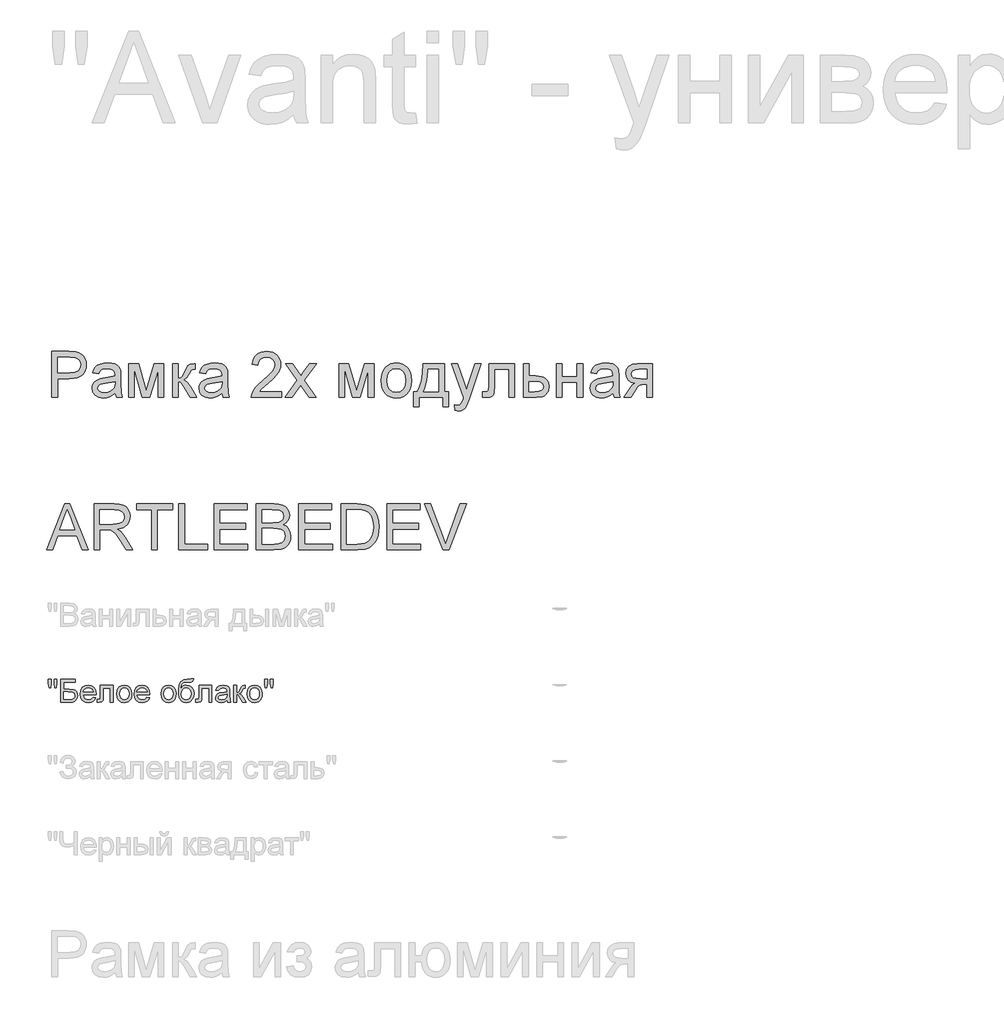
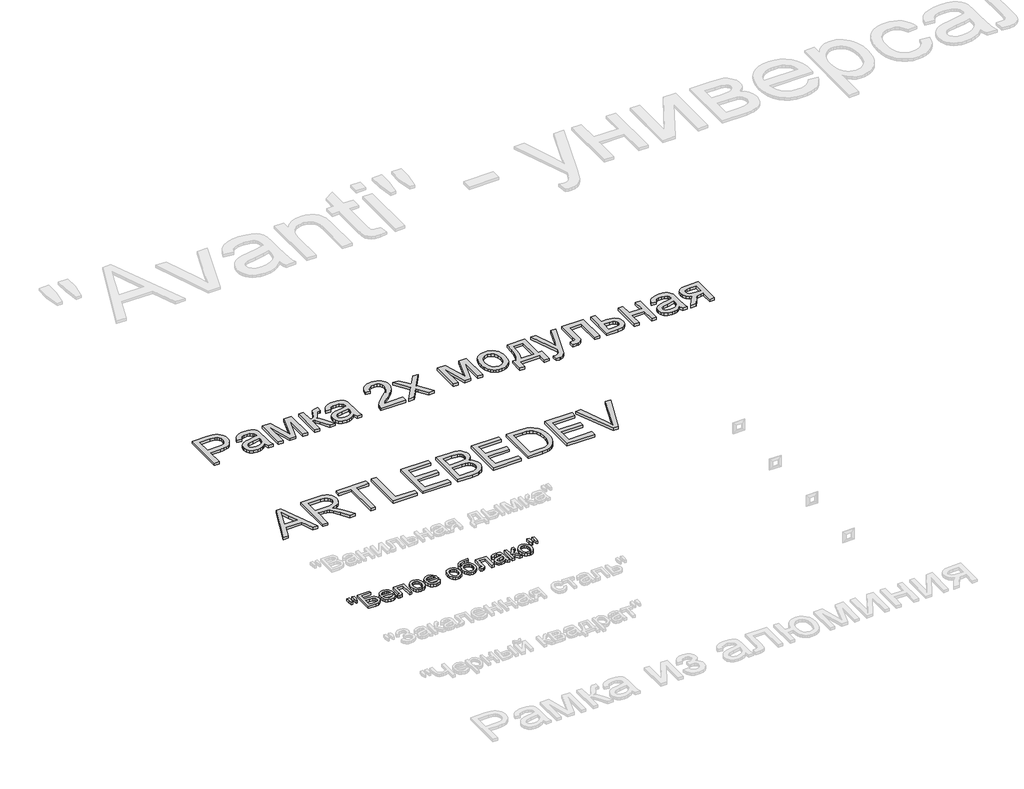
# One storey, part 117 of 168: 3 proxies.
"""IFC4 building model written with IfcOpenShell, lengths in millimetres."""

from ifc_helpers import new_model, si_unit, origin, origin_with_axes, place, context, project, spatial, polyline, outline, extrude, element, save

model = new_model("IFC4")

# Units and contexts
model_context = context("Model", 3, world=origin())
ifc_project = project(units=[si_unit("LENGTHUNIT", "METRE", prefix="MILLI")], contexts=[model_context])

# Site, building, storey
site = spatial("IfcSite", under=ifc_project)
building = spatial("IfcBuilding", under=site)
storey = spatial("IfcBuildingStorey", under=building, Name="Этаж 01", Elevation=0.0)

# Proxies
placement = place(None, origin())
element("IfcBuildingElementProxy", 1, Name="300 мм Arial 2", ObjectType="300 мм Arial 2", at=placement, inside=storey, context=model_context, shape_type="SweptSolid", body=[
    extrude(outline(polyline([(32899.0945017, -5048.4056816), (32899.0945017, -4747.0367511), (33010.7834754, -4747.0367511), (33055.8122316, -4749.9062307), (33075.8893915, -4755.2681108), (33092.4164901, -4763.9961111), (33105.7246213, -4776.4857048), (33116.1448788, -4793.1323651), (33122.8771193, -4812.7680666), (33125.1211995, -4834.224784), (33123.6059855, -4852.7246498), (33119.0603436, -4869.7437906), (33111.4842738, -4885.2822064), (33100.877776, -4899.3398971), (33086.3165468, -4910.9925593), (33066.8762826, -4919.3158895), (33042.5569835, -4924.3098875), (33013.3586494, -4925.9745536), (32936.765618, -4925.9745536), (32936.765618, -5048.4056816), (32899.0945017, -5048.4056816)]), holes=[polyline([(32936.765618, -4888.3034373), (33015.5659413, -4888.3034373), (33048.9696265, -4884.8453465), (33071.0425462, -4874.4710742), (33083.3481989, -4857.824414), (33087.4500832, -4835.5491592), (33085.0312591, -4818.6265874), (33077.7747867, -4804.352766), (33066.581977, -4793.6106117), (33052.3541408, -4787.2830414), (33014.6830245, -4784.7078674), (32936.765618, -4784.7078674), (32936.765618, -4888.3034373)])]), origin_with_axes(), (0.0, 0.0, 1.0), 20.0),
    extrude(outline(polyline([(33313.476781, -5020.1523443), (33295.4781544, -5035.584994), (33276.9460989, -5045.6833548), (33257.4575502, -5051.256767), (33236.589444, -5053.1145711), (33205.1079423, -5048.6448049), (33181.8853914, -5035.2355061), (33167.5655847, -5014.8732377), (33162.7923158, -4989.5445623), (33164.5949376, -4973.9279716), (33170.0028029, -4959.7461207), (33178.3445271, -4947.6060149), (33188.9487257, -4938.1146594), (33215.3258647, -4925.7538244), (33247.9202095, -4920.0884417), (33286.4374544, -4914.1287533), (33313.2560518, -4907.1389954), (33313.476781, -4898.7512859), (33310.883213, -4881.9390788), (33303.1025088, -4870.9394071), (33285.7016904, -4862.7724268), (33261.4582669, -4860.0501), (33239.0174652, -4861.8619189), (33223.3456922, -4867.2973753), (33212.6587202, -4877.3497509), (33205.1723216, -4893.0123268), (33167.5012053, -4888.3034373), (33174.0403078, -4867.7020455), (33183.7983777, -4851.5152378), (33197.685923, -4839.1360086), (33216.6134517, -4829.9573528), (33239.7624262, -4824.273576), (33266.3143092, -4822.3789837), (33291.7809404, -4824.0528468), (33311.9684648, -4829.074436), (33327.1895824, -4836.625214), (33337.7569927, -4845.8866432), (33344.7651447, -4857.3369703), (33349.3084874, -4871.4544419), (33351.1478973, -4904.4166687), (33351.1478973, -4951.2848348), (33353.0608837, -5016.7310418), (33360.5656764, -5048.4056816), (33322.8945601, -5048.4056816), (33313.476781, -5020.1523443)]), holes=[polyline([(33313.476781, -4944.8101117), (33252.7026754, -4956.3616064), (33220.2922716, -4962.4684475), (33205.61378, -4972.4012614), (33200.4634321, -4986.895812), (33203.2685323, -4998.0978187), (33211.683833, -5007.2764745), (33225.525393, -5013.4017097), (33244.6092715, -5015.4434548), (33264.8427813, -5013.1901776), (33282.7218462, -5006.4303459), (33297.2163968, -4996.4699409), (33307.2963635, -4984.6149436), (33311.7661297, -4972.4012614), (33313.2560518, -4955.4786896), (33313.476781, -4944.8101117)])]), origin_with_axes(), (0.0, 0.0, 1.0), 20.0),
    extrude(outline(polyline([(33402.9456823, -4827.0878733), (33467.7664898, -4827.0878733), (33517.7248647, -5004.2598421), (33571.5827888, -4827.0878733), (33633.6812696, -4827.0878733), (33633.6812696, -5048.4056816), (33596.0101533, -5048.4056816), (33596.0101533, -4870.2036431), (33541.8579236, -5048.4056816), (33492.4145835, -5048.4056816), (33440.6167986, -4861.6687808), (33440.6167986, -5048.4056816), (33402.9456823, -5048.4056816), (33402.9456823, -4827.0878733)])), origin_with_axes(), (0.0, 0.0, 1.0), 20.0),
    extrude(outline(polyline([(33690.1879441, -4827.0878733), (33727.8590604, -4827.0878733), (33727.8590604, -4921.265664), (33743.1813455, -4919.5734069), (33753.0957653, -4914.4966353), (33761.8697508, -4901.2528835), (33773.7707334, -4875.0596854), (33790.9508226, -4841.0306009), (33806.1075608, -4829.9573528), (33833.6619222, -4827.0878733), (33840.8724093, -4827.0878733), (33840.8724093, -4864.9797188), (33830.7188662, -4864.7589896), (33812.3247665, -4868.7321151), (33799.3753203, -4893.5273616), (33784.1817939, -4920.345959), (33762.8814263, -4933.4793463), (33774.8191971, -4938.7814455), (33786.6466032, -4948.1394438), (33809.9703217, -4979.0231373), (33850.2901884, -5048.4056816), (33807.4687241, -5048.4056816), (33767.9581979, -4980.4946653), (33748.0925701, -4951.7630814), (33738.8035497, -4946.5483542), (33727.8590604, -4944.8101117), (33727.8590604, -5048.4056816), (33690.1879441, -5048.4056816), (33690.1879441, -4827.0878733)])), origin_with_axes(), (0.0, 0.0, 1.0), 20.0),
    extrude(outline(polyline([(34015.1013222, -5020.1523443), (33997.1026956, -5035.584994), (33978.5706401, -5045.6833548), (33959.0820914, -5051.256767), (33938.2139852, -5053.1145711), (33906.7324835, -5048.6448049), (33883.5099326, -5035.2355061), (33869.1901259, -5014.8732377), (33864.416857, -4989.5445623), (33866.2194788, -4973.9279716), (33871.6273441, -4959.7461207), (33879.9690683, -4947.6060149), (33890.5732669, -4938.1146594), (33916.9504059, -4925.7538244), (33949.5447507, -4920.0884417), (33988.0619956, -4914.1287533), (34014.880593, -4907.1389954), (34015.1013222, -4898.7512859), (34012.5077542, -4881.9390788), (34004.72705, -4870.9394071), (33987.3262316, -4862.7724268), (33963.0828081, -4860.0501), (33940.6420064, -4861.8619189), (33924.9702334, -4867.2973753), (33914.2832614, -4877.3497509), (33906.7968628, -4893.0123268), (33869.1257465, -4888.3034373), (33875.664849, -4867.7020455), (33885.4229189, -4851.5152378), (33899.3104642, -4839.1360086), (33918.2379929, -4829.9573528), (33941.3869674, -4824.273576), (33967.9388504, -4822.3789837), (33993.4054816, -4824.0528468), (34013.593006, -4829.074436), (34028.8141236, -4836.625214), (34039.3815339, -4845.8866432), (34046.3896859, -4857.3369703), (34050.9330286, -4871.4544419), (34052.7724385, -4904.4166687), (34052.7724385, -4951.2848348), (34054.6854249, -5016.7310418), (34062.1902176, -5048.4056816), (34024.5191013, -5048.4056816), (34015.1013222, -5020.1523443)]), holes=[polyline([(34015.1013222, -4944.8101117), (33954.3272166, -4956.3616064), (33921.9168128, -4962.4684475), (33907.2383212, -4972.4012614), (33902.0879733, -4986.895812), (33904.8930735, -4998.0978187), (33913.3083742, -5007.2764745), (33927.1499342, -5013.4017097), (33946.2338127, -5015.4434548), (33966.4673225, -5013.1901776), (33984.3463874, -5006.4303459), (33998.840938, -4996.4699409), (34008.9209047, -4984.6149436), (34013.3906709, -4972.4012614), (34014.880593, -4955.4786896), (34015.1013222, -4944.8101117)])]), origin_with_axes(), (0.0, 0.0, 1.0), 20.0),
    extrude(outline(polyline([(34405.9391539, -5010.7345653), (34405.9391539, -5048.4056816), (34208.1657933, -5048.4056816), (34212.2124952, -5022.4332127), (34221.5015156, -5002.1353236), (34235.0947553, -4982.4444398), (34254.758048, -4961.8338511), (34282.2572271, -4938.776847), (34322.9081876, -4902.6692292), (34347.2987639, -4876.0161786), (34359.494052, -4854.3847173), (34363.5591481, -4833.3418672), (34359.7239783, -4814.4787179), (34348.2184689, -4798.7977478), (34330.5325419, -4788.2303375), (34308.1561196, -4784.7078674), (34284.6576571, -4788.1475641), (34266.4015131, -4798.466654), (34254.6200922, -4814.8557969), (34250.5457991, -4836.5056523), (34212.8746828, -4831.7967628), (34222.0073534, -4795.3580512), (34230.553712, -4780.8221139), (34241.7534195, -4768.7417888), (34255.3489584, -4759.2458348), (34271.0828115, -4752.4630105), (34308.96546, -4747.0367511), (34329.1552837, -4748.5450673), (34347.1240199, -4753.0700158), (34362.8716686, -4760.6115967), (34376.3982297, -4771.16981), (34387.2622449, -4783.9629064), (34395.0222557, -4798.2091366), (34399.6782622, -4813.9085008), (34401.2302644, -4831.0609988), (34399.5564013, -4849.0780195), (34394.5348121, -4866.7823406), (34385.6228707, -4884.7901642), (34372.2779513, -4903.7176929), (34351.005175, -4926.3148444), (34318.3096627, -4955.3315368), (34274.9731636, -4991.5679133), (34257.9770154, -5010.7345653), (34405.9391539, -5010.7345653)])), origin_with_axes(), (0.0, 0.0, 1.0), 20.0),
    extrude(outline(polyline([(34429.4836016, -5048.4056816), (34509.9761821, -4937.1581662), (34434.1924911, -4827.0878733), (34479.5155529, -4827.0878733), (34516.0830233, -4880.0628806), (34533.1527478, -4905.0788562), (34547.941604, -4884.6246173), (34589.5858459, -4827.0878733), (34634.9089077, -4827.0878733), (34555.2992439, -4937.1581662), (34631.9658517, -5048.4056816), (34586.6427899, -5048.4056816), (34540.5103877, -4981.5247348), (34532.0491018, -4969.3110526), (34474.8066634, -5048.4056816), (34429.4836016, -5048.4056816)])), origin_with_axes(), (0.0, 0.0, 1.0), 20.0),
    extrude(outline(polyline([(34782.650317, -4827.0878733), (34847.4711245, -4827.0878733), (34897.4294995, -5004.2598421), (34951.2874236, -4827.0878733), (35013.3859043, -4827.0878733), (35013.3859043, -5048.4056816), (34975.714788, -5048.4056816), (34975.714788, -4870.2036431), (34921.5625583, -5048.4056816), (34872.1192182, -5048.4056816), (34820.3214333, -4861.6687808), (34820.3214333, -5048.4056816), (34782.650317, -5048.4056816), (34782.650317, -4827.0878733)])), origin_with_axes(), (0.0, 0.0, 1.0), 20.0),
    extrude(outline(polyline([(35060.4747997, -4937.7467774), (35062.5119463, -4909.0841715), (35068.6233859, -4884.385494), (35078.8091187, -4863.6507451), (35093.0691445, -4846.8799246), (35107.4257394, -4836.160763), (35123.2722563, -4828.504219), (35140.6086953, -4823.9102925), (35159.4350564, -4822.3789837), (35180.2180899, -4824.2436856), (35199.0099621, -4829.8377912), (35215.8106729, -4839.1613005), (35230.6202225, -4852.2142135), (35242.7074453, -4868.5550719), (35251.3411759, -4887.7424172), (35256.5214142, -4909.7762495), (35258.2481603, -4934.6565687), (35255.1947398, -4972.7139611), (35246.0344781, -5001.6846682), (35231.0340897, -5023.3805088), (35210.4602892, -5039.6133019), (35186.0237276, -5049.7392538), (35159.4350564, -5053.1145711), (35138.3485203, -5051.256767), (35119.3819042, -5045.6833548), (35102.5352081, -5036.3943344), (35087.808432, -5023.3897059), (35075.8499679, -5006.8901984), (35067.3082078, -4987.1165412), (35062.1831517, -4964.0687342), (35060.4747997, -4937.7467774)]), holes=[polyline([(35098.145916, -4937.673201), (35102.5053177, -4971.7666649), (35115.5835226, -4996.0560737), (35135.2652093, -5010.5966095), (35159.4350564, -5015.4434548), (35183.4945389, -5010.5690184), (35203.1394375, -4995.9457091), (35216.2176424, -4971.3344036), (35220.577044, -4936.4959786), (35216.1900512, -4903.3957961), (35203.0290729, -4879.4374812), (35183.3565832, -4864.8969453), (35159.4350564, -4860.0501), (35135.2652093, -4864.8785512), (35115.5835226, -4879.3639048), (35102.5053177, -4903.5981312), (35098.145916, -4937.673201)])]), origin_with_axes(), (0.0, 0.0, 1.0), 20.0),
    extrude(outline(polyline([(35333.5903929, -4827.0878733), (35474.8570791, -4827.0878733), (35474.8570791, -5010.7345653), (35503.1104163, -5010.7345653), (35503.1104163, -5109.6212456), (35465.4393, -5109.6212456), (35465.4393, -5048.4056816), (35310.0459452, -5048.4056816), (35310.0459452, -5109.6212456), (35272.3748289, -5109.6212456), (35272.3748289, -5010.7345653), (35295.9192766, -5010.7345653), (35313.0349865, -4979.8048865), (35325.0187425, -4938.8872116), (35331.8705446, -4887.9815405), (35333.5903929, -4827.0878733)]), holes=[polyline([(35366.5526197, -4864.7589896), (35363.4624109, -4910.8821947), (35357.7234518, -4950.5858591), (35349.3357423, -4983.8699826), (35338.2992825, -5010.7345653), (35437.1859628, -5010.7345653), (35437.1859628, -4864.7589896), (35366.5526197, -4864.7589896)])]), origin_with_axes(), (0.0, 0.0, 1.0), 20.0),
    extrude(outline(polyline([(35545.4904222, -5133.1656933), (35540.7815326, -5096.8925285), (35559.9113964, -5100.2034665), (35577.7904613, -5096.0463999), (35588.7533448, -5084.4581171), (35599.0540407, -5056.7198147), (35601.9970966, -5047.5963412), (35521.9459745, -4827.0878733), (35561.6772299, -4827.0878733), (35604.1308122, -4949.9604597), (35618.9196684, -4999.1094942), (35633.7085246, -4955.6994188), (35677.3393292, -4827.0878733), (35716.7762791, -4827.0878733), (35639.7417893, -5053.7031823), (35619.7290088, -5102.8522169), (35609.4834952, -5118.5423839), (35597.8768183, -5129.4132969), (35584.3939432, -5135.7592613), (35568.5198351, -5137.8745828), (35545.4904222, -5133.1656933)])), origin_with_axes(), (0.0, 0.0, 1.0), 20.0),
    extrude(outline(polyline([(35766.8082305, -4827.0878733), (35936.3282538, -4827.0878733), (35936.3282538, -5048.1849524), (35898.6571375, -5048.1849524), (35898.6571375, -4864.7589896), (35804.4793468, -4864.7589896), (35804.4793468, -4970.3411222), (35801.940961, -5019.0486984), (35797.1860862, -5030.0759612), (35787.9982334, -5039.6133019), (35774.0555058, -5046.2075866), (35755.0360066, -5048.4056816), (35724.4282246, -5046.4926952), (35724.4282246, -5010.7345653), (35741.27722, -5010.7345653), (35758.3101564, -5008.4169087), (35765.1159733, -5001.0592688), (35766.8082305, -4968.2074066), (35766.8082305, -4827.0878733)])), origin_with_axes(), (0.0, 0.0, 1.0), 20.0),
    extrude(outline(polyline([(35992.8349283, -4827.0878733), (36030.5060446, -4827.0878733), (36030.5060446, -4907.1389954), (36073.91612, -4907.1389954), (36111.5504481, -4911.857082), (36126.6979893, -4917.7546902), (36139.3991152, -4926.0113418), (36149.4422936, -4936.3419281), (36156.6159925, -4948.4613405), (36162.3549517, -4978.0666441), (36157.4713182, -5005.0231973), (36142.8204177, -5027.7675016), (36131.5885206, -5036.7967054), (36117.427363, -5043.2461366), (36080.3172667, -5048.4056816), (35992.8349283, -5048.4056816), (35992.8349283, -4827.0878733)]), holes=[polyline([(36030.5060446, -5010.7345653), (36065.6755633, -5010.7345653), (36092.9632103, -5008.7571995), (36111.1089897, -5002.8251024), (36121.290124, -4992.6991504), (36124.6838354, -4978.1402205), (36122.1730408, -4965.8345678), (36114.6406569, -4954.9636548), (36098.4998344, -4947.3484975), (36070.1637237, -4944.8101117), (36030.5060446, -4944.8101117), (36030.5060446, -5010.7345653)])]), origin_with_axes(), (0.0, 0.0, 1.0), 20.0),
    extrude(outline(polyline([(36209.4438471, -4827.0878733), (36247.1149634, -4827.0878733), (36247.1149634, -4911.847885), (36346.0016437, -4911.847885), (36346.0016437, -4827.0878733), (36383.67276, -4827.0878733), (36383.67276, -5048.4056816), (36346.0016437, -5048.4056816), (36346.0016437, -4949.5190013), (36247.1149634, -4949.5190013), (36247.1149634, -5048.4056816), (36209.4438471, -5048.4056816), (36209.4438471, -4827.0878733)])), origin_with_axes(), (0.0, 0.0, 1.0), 20.0),
    extrude(outline(polyline([(36581.4461206, -5020.1523443), (36563.447494, -5035.584994), (36544.9154385, -5045.6833548), (36525.4268898, -5051.256767), (36504.5587836, -5053.1145711), (36473.0772819, -5048.6448049), (36449.8547309, -5035.2355061), (36435.5349242, -5014.8732377), (36430.7616554, -4989.5445623), (36432.5642771, -4973.9279716), (36437.9721425, -4959.7461207), (36446.3138667, -4947.6060149), (36456.9180652, -4938.1146594), (36483.2952043, -4925.7538244), (36515.889549, -4920.0884417), (36554.4067939, -4914.1287533), (36581.2253914, -4907.1389954), (36581.4461206, -4898.7512859), (36578.8525525, -4881.9390788), (36571.0718483, -4870.9394071), (36553.6710299, -4862.7724268), (36529.4276065, -4860.0501), (36506.9868048, -4861.8619189), (36491.3150318, -4867.2973753), (36480.6280598, -4877.3497509), (36473.1416612, -4893.0123268), (36435.4705449, -4888.3034373), (36442.0096474, -4867.7020455), (36451.7677173, -4851.5152378), (36465.6552626, -4839.1360086), (36484.5827912, -4829.9573528), (36507.7317658, -4824.273576), (36534.2836488, -4822.3789837), (36559.7502799, -4824.0528468), (36579.9378044, -4829.074436), (36595.1589219, -4836.625214), (36605.7263323, -4845.8866432), (36612.7344843, -4857.3369703), (36617.2778269, -4871.4544419), (36619.1172369, -4904.4166687), (36619.1172369, -4951.2848348), (36621.0302233, -5016.7310418), (36628.535016, -5048.4056816), (36590.8638997, -5048.4056816), (36581.4461206, -5020.1523443)]), holes=[polyline([(36581.4461206, -4944.8101117), (36520.672015, -4956.3616064), (36488.2616112, -4962.4684475), (36473.5831196, -4972.4012614), (36468.4327717, -4986.895812), (36471.2378719, -4998.0978187), (36479.6531725, -5007.2764745), (36493.4947326, -5013.4017097), (36512.5786111, -5015.4434548), (36532.8121208, -5013.1901776), (36550.6911858, -5006.4303459), (36565.1857364, -4996.4699409), (36575.2657031, -4984.6149436), (36579.7354693, -4972.4012614), (36581.2253914, -4955.4786896), (36581.4461206, -4944.8101117)])]), origin_with_axes(), (0.0, 0.0, 1.0), 20.0),
    extrude(outline(polyline([(36840.4350452, -4827.0878733), (36840.4350452, -5048.4056816), (36802.7639289, -5048.4056816), (36802.7639289, -4963.6456699), (36782.2361135, -4963.6456699), (36754.2770819, -4968.4281358), (36743.1118634, -4978.8575904), (36728.0103075, -5000.5810222), (36697.9911367, -5048.4056816), (36654.4339084, -5048.4056816), (36692.2521775, -4987.9258816), (36708.9540201, -4966.2208438), (36724.3314875, -4956.5823356), (36698.5797478, -4948.6912668), (36680.4799537, -4933.7000755), (36669.7745876, -4913.7608713), (36666.2061323, -4891.025764), (36671.0805687, -4865.2372362), (36685.703878, -4844.8197854), (36709.5610254, -4831.5208513), (36742.1369761, -4827.0878733), (36840.4350452, -4827.0878733)]), holes=[polyline([(36802.7639289, -4864.7589896), (36753.0998595, -4864.7589896), (36727.4492874, -4866.9386904), (36712.8903575, -4873.4777929), (36706.1305258, -4882.9415572), (36703.8772486, -4893.8952436), (36707.1973836, -4908.2518385), (36717.1577886, -4918.2122435), (36735.5610854, -4924.033976), (36764.2098958, -4925.9745536), (36802.7639289, -4925.9745536), (36802.7639289, -4864.7589896)])]), origin_with_axes(), (0.0, 0.0, 1.0), 20.0),
])
element("IfcBuildingElementProxy", 2, Name="300 мм Arial 2", ObjectType="300 мм Arial 2", at=placement, inside=storey, context=model_context, shape_type="SweptSolid", body=[
    extrude(outline(polyline([(32863.9985593, -6048.4056816), (32984.2959717, -5747.0367511), (33016.3752817, -5747.0367511), (33136.6726941, -6048.4056816), (33096.8678623, -6048.4056816), (33062.3605311, -5954.2278908), (32938.2371459, -5954.2278908), (32903.8033912, -6048.4056816), (32863.9985593, -6048.4056816)]), holes=[polyline([(32952.069509, -5916.5567745), (33048.6017445, -5916.5567745), (33021.4520533, -5842.4653407), (33000.3356267, -5784.7078674), (32981.573645, -5835.9906176), (32952.069509, -5916.5567745)])]), origin_with_axes(), (0.0, 0.0, 1.0), 20.0),
    extrude(outline(polyline([(33176.9189844, -6048.4056816), (33176.9189844, -5747.0367511), (33306.7813287, -5747.0367511), (33341.684133, -5749.0692991), (33367.0771877, -5755.1669432), (33385.6368344, -5766.4241323), (33400.0394145, -5783.9353152), (33409.2824496, -5805.64955), (33412.3634613, -5829.5158944), (33407.2590986, -5859.2039714), (33391.9460106, -5883.8152769), (33380.3462314, -5893.8446598), (33365.9643447, -5901.8598888), (33328.8542484, -5911.847885), (33350.2649805, -5927.9611163), (33380.7991861, -5966.7358786), (33431.0518667, -6048.4056816), (33387.2739093, -6048.4056816), (33348.0576886, -5985.9393188), (33319.7307749, -5944.5893825), (33299.828359, -5925.0548486), (33281.9125058, -5917.8811497), (33260.0603153, -5916.5567745), (33214.5901007, -5916.5567745), (33214.5901007, -6048.4056816), (33176.9189844, -6048.4056816)]), holes=[polyline([(33214.5901007, -5878.8856582), (33298.908654, -5878.8856582), (33323.1244863, -5877.552086), (33341.9140593, -5873.5513693), (33356.059122, -5866.6167937), (33366.3414237, -5856.4816447), (33372.6046147, -5844.2219772), (33374.692345, -5830.913846), (33370.7100224, -5812.5381404), (33358.7630546, -5797.7308901), (33338.2076482, -5787.9636231), (33308.4000095, -5784.7078674), (33214.5901007, -5784.7078674), (33214.5901007, -5878.8856582)])]), origin_with_axes(), (0.0, 0.0, 1.0), 20.0),
    extrude(outline(polyline([(33553.6301475, -6048.4056816), (33553.6301475, -5784.7078674), (33454.7434672, -5784.7078674), (33454.7434672, -5747.0367511), (33690.1879441, -5747.0367511), (33690.1879441, -5784.7078674), (33591.3012638, -5784.7078674), (33591.3012638, -6048.4056816), (33553.6301475, -6048.4056816)])), origin_with_axes(), (0.0, 0.0, 1.0), 20.0),
    extrude(outline(polyline([(33732.5679499, -6048.4056816), (33732.5679499, -5747.0367511), (33770.2390662, -5747.0367511), (33770.2390662, -6010.7345653), (33920.9235315, -6010.7345653), (33920.9235315, -6048.4056816), (33732.5679499, -6048.4056816)])), origin_with_axes(), (0.0, 0.0, 1.0), 20.0),
    extrude(outline(polyline([(33963.3035373, -6048.4056816), (33963.3035373, -5747.0367511), (34179.9124561, -5747.0367511), (34179.9124561, -5784.7078674), (34000.9746536, -5784.7078674), (34000.9746536, -5874.1767687), (34170.494677, -5874.1767687), (34170.494677, -5911.847885), (34000.9746536, -5911.847885), (34000.9746536, -6010.7345653), (34184.6213456, -6010.7345653), (34184.6213456, -6048.4056816), (33963.3035373, -6048.4056816)])), origin_with_axes(), (0.0, 0.0, 1.0), 20.0),
    extrude(outline(polyline([(34241.1280201, -6048.4056816), (34241.1280201, -5747.0367511), (34356.1279318, -5747.0367511), (34387.7565863, -5749.2532401), (34412.4506652, -5755.9027072), (34431.3781939, -5767.1506992), (34445.7071976, -5783.162763), (34454.7295035, -5801.9983212), (34457.7369388, -5821.7167961), (34455.2077501, -5839.8625756), (34447.620184, -5856.9231031), (34434.9190581, -5871.849915), (34417.0491902, -5883.5945477), (34438.3955429, -5894.7413722), (34454.1684835, -5911.7007322), (34463.9081593, -5933.3505876), (34467.1547179, -5958.5688983), (34464.9382289, -5979.5841573), (34458.2887618, -5999.072706), (34448.365145, -6015.6457899), (34436.3262067, -6027.9146544), (34421.5833357, -6036.7990046), (34403.5479209, -6043.2185454), (34355.245015, -6048.4056816), (34241.1280201, -6048.4056816)]), holes=[polyline([(34278.7991364, -5869.4678791), (34347.5930695, -5869.4678791), (34387.7657833, -5866.2305176), (34401.8280726, -5860.6479083), (34411.9356304, -5852.2877899), (34418.0332745, -5841.2789212), (34420.0658225, -5827.7500609), (34418.1712302, -5814.6166736), (34412.4874534, -5803.1755436), (34403.2720094, -5794.2452082), (34390.7824157, -5788.6442048), (34342.3691451, -5784.7078674), (34278.7991364, -5784.7078674), (34278.7991364, -5869.4678791)]), polyline([(34278.7991364, -6010.7345653), (34356.0543554, -6010.7345653), (34384.013387, -6009.2630373), (34407.6681993, -6001.0592688), (34423.3399723, -5984.320638), (34427.9476943, -5972.4932319), (34429.4836016, -5958.9367803), (34427.6809798, -5943.1914309), (34422.2731145, -5929.6533735), (34412.8277443, -5919.0675691), (34398.9126078, -5912.1789788), (34379.2033299, -5908.3989913), (34352.3755354, -5907.1389954), (34278.7991364, -5907.1389954), (34278.7991364, -6010.7345653)])]), origin_with_axes(), (0.0, 0.0, 1.0), 20.0),
    extrude(outline(polyline([(34518.9525028, -6048.4056816), (34518.9525028, -5747.0367511), (34735.5614216, -5747.0367511), (34735.5614216, -5784.7078674), (34556.6236191, -5784.7078674), (34556.6236191, -5874.1767687), (34726.1436425, -5874.1767687), (34726.1436425, -5911.847885), (34556.6236191, -5911.847885), (34556.6236191, -6010.7345653), (34740.2703111, -6010.7345653), (34740.2703111, -6048.4056816), (34518.9525028, -6048.4056816)])), origin_with_axes(), (0.0, 0.0, 1.0), 20.0),
    extrude(outline(polyline([(34796.7769856, -6048.4056816), (34796.7769856, -5747.0367511), (34900.7404374, -5747.0367511), (34954.5247851, -5751.3777587), (34978.5474794, -5759.7470741), (34998.8177773, -5772.9356436), (35019.6582924, -5795.8914801), (35034.5023309, -5824.4391229), (35043.386681, -5858.0267491), (35046.3481311, -5896.1025356), (35044.3431742, -5928.44856), (35038.3283036, -5956.9134294), (35029.1680419, -5981.1476558), (35017.7269119, -6000.8017514), (35004.5567365, -6016.3171745), (34990.2093386, -6028.1353836), (34973.7374223, -6036.9001722), (34954.1936913, -6043.2553336), (34905.7436325, -6048.4056816), (34796.7769856, -6048.4056816)]), holes=[polyline([(34834.4481019, -6010.7345653), (34901.1083194, -6010.7345653), (34928.6810749, -6009.3734019), (34949.5951664, -6005.2899117), (34965.377304, -5998.7232181), (34977.554198, -5989.9124443), (34990.6416, -5973.6060749), (35000.4732463, -5952.4988454), (35006.6260727, -5926.4987854), (35008.6770148, -5895.5139244), (35004.657904, -5854.4582937), (34992.6005716, -5824.1448173), (34974.785886, -5803.3226964), (34953.4947155, -5790.7411321), (34931.826466, -5786.2161836), (34900.0782498, -5784.7078674), (34834.4481019, -5784.7078674), (34834.4481019, -6010.7345653)])]), origin_with_axes(), (0.0, 0.0, 1.0), 20.0),
    extrude(outline(polyline([(35098.145916, -6048.4056816), (35098.145916, -5747.0367511), (35314.7548348, -5747.0367511), (35314.7548348, -5784.7078674), (35135.8170323, -5784.7078674), (35135.8170323, -5874.1767687), (35305.3370557, -5874.1767687), (35305.3370557, -5911.847885), (35135.8170323, -5911.847885), (35135.8170323, -6010.7345653), (35319.4637243, -6010.7345653), (35319.4637243, -6048.4056816), (35098.145916, -6048.4056816)])), origin_with_axes(), (0.0, 0.0, 1.0), 20.0),
    extrude(outline(polyline([(35464.9978416, -6048.4056816), (35345.0683112, -5747.0367511), (35385.3881779, -5747.0367511), (35465.6600292, -5964.1607047), (35481.9204134, -6013.08901), (35497.9600684, -5964.1607047), (35578.4526489, -5747.0367511), (35618.7725156, -5747.0367511), (35503.9197567, -6048.4056816), (35464.9978416, -6048.4056816)])), origin_with_axes(), (0.0, 0.0, 1.0), 20.0),
])
element("IfcBuildingElementProxy", 3, Name="150", ObjectType="150", at=placement, inside=storey, context=model_context, shape_type="SweptSolid", body=[
    extrude(outline(polyline([(32880.1485789, -6951.873446), (32875.550054, -6922.7739802), (32875.550054, -6897.7212163), (32894.3856121, -6897.7212163), (32894.3856121, -6922.7739802), (32890.2653338, -6951.873446), (32880.1485789, -6951.873446)])), origin_with_axes(), (0.0, 0.0, 1.0), 20.0),
    extrude(outline(polyline([(32917.7093306, -6951.873446), (32913.2211703, -6922.7739802), (32913.2211703, -6897.7212163), (32932.0567284, -6897.7212163), (32932.0567284, -6922.7739802), (32927.6421445, -6951.873446), (32917.7093306, -6951.873446)])), origin_with_axes(), (0.0, 0.0, 1.0), 20.0),
    extrude(outline(polyline([(32957.9556209, -6897.7212163), (33052.1334117, -6897.7212163), (33052.1334117, -6916.5567745), (32976.791179, -6916.5567745), (32976.791179, -6961.2912251), (33012.0710624, -6961.2912251), (33043.157091, -6965.1171979), (33053.5589544, -6970.6446248), (33061.6615553, -6979.5749603), (33066.8762826, -6991.0712726), (33068.614525, -7004.2966303), (33063.6665122, -7025.7625448), (33048.8960501, -7042.0781113), (33035.6247071, -7046.823789), (33015.4555767, -7048.4056816), (32957.9556209, -7048.4056816), (32957.9556209, -6897.7212163)]), holes=[polyline([(32976.791179, -7029.5701234), (33017.1478339, -7029.5701234), (33031.4124583, -7028.015822), (33041.6119866, -7023.3529177), (33047.7372218, -7015.5814105), (33049.7789669, -7004.7013005), (33045.1068655, -6989.9492325), (33032.102237, -6982.0765578), (33003.7201411, -6980.1267833), (32976.791179, -6980.1267833), (32976.791179, -7029.5701234)])]), origin_with_axes(), (0.0, 0.0, 1.0), 20.0),
    extrude(outline(polyline([(33169.6349209, -7015.4434548), (33188.1025971, -7017.7978996), (33181.4485315, -7031.713036), (33170.8305374, -7042.1148995), (33156.4877381, -7048.5988196), (33138.6592569, -7050.7601263), (33116.5587461, -7047.0307226), (33099.5534008, -7035.8425114), (33088.710079, -7017.9220597), (33085.0956384, -6993.9959345), (33088.7468672, -6969.2650674), (33099.7005536, -6950.7698), (33116.4759726, -6939.2366995), (33137.5923991, -6935.3923327), (33158.0512366, -6939.2275025), (33174.3989927, -6950.7330118), (33185.1181544, -6969.191491), (33188.6912083, -6993.8855699), (33188.5808437, -6998.9623414), (33103.9311966, -6998.9623414), (33107.1915508, -7013.0614189), (33114.7653213, -7023.4264941), (33125.6960151, -7029.8000497), (33139.0271389, -7031.9245682), (33157.4948151, -7027.9882308), (33169.6349209, -7015.4434548)]), holes=[polyline([(33103.9311966, -6980.1267833), (33169.8556501, -6980.1267833), (33167.3080673, -6970.1755753), (33162.3140692, -6963.0570587), (33151.3327917, -6956.4351828), (33137.5188227, -6954.2278908), (33124.8222954, -6955.9891259), (33114.3238629, -6961.272831), (33107.0260039, -6969.5087892), (33103.9311966, -6980.1267833)])]), origin_with_axes(), (0.0, 0.0, 1.0), 20.0),
    extrude(outline(polyline([(33216.9445455, -6937.7467774), (33301.7045572, -6937.7467774), (33301.7045572, -7048.295317), (33282.868999, -7048.295317), (33282.868999, -6956.5823356), (33235.7801036, -6956.5823356), (33235.7801036, -7009.3734019), (33234.5109108, -7033.72719), (33227.539547, -7044.0094917), (33211.0584336, -7048.4056816), (33195.7545426, -7047.4491884), (33195.7545426, -7029.5701234), (33204.1790403, -7029.5701234), (33212.6955084, -7028.4112951), (33216.0984169, -7024.7324752), (33216.9445455, -7008.3065441), (33216.9445455, -6937.7467774)])), origin_with_axes(), (0.0, 0.0, 1.0), 20.0),
    extrude(outline(polyline([(33325.2490049, -6993.0762295), (33329.323298, -6966.3955878), (33341.5461773, -6947.6428031), (33356.6477332, -6938.4549503), (33374.7291332, -6935.3923327), (33394.516586, -6939.1217364), (33410.3217163, -6950.3099476), (33420.6821929, -6968.0740494), (33424.1356852, -6991.5311251), (33422.6089749, -7010.5598213), (33418.0288441, -7025.0451749), (33410.5286499, -7035.8930952), (33400.2417496, -7044.0094917), (33388.0234688, -7049.0724677), (33374.7291332, -7050.7601263), (33354.7025571, -7047.0445182), (33338.915821, -7035.8976937), (33328.6657089, -7017.7611114), (33325.2490049, -6993.0762295)]), holes=[polyline([(33344.084563, -6993.0394413), (33346.2642638, -7010.0861732), (33352.8033663, -7022.2308776), (33362.6442097, -7029.5011455), (33374.7291332, -7031.9245682), (33386.7588745, -7029.48735), (33396.5813237, -7022.1756953), (33403.1204262, -7009.8700426), (33405.300127, -6992.4508301), (33403.1066306, -6975.9007388), (33396.5261414, -6963.9215814), (33386.6898966, -6956.6513134), (33374.7291332, -6954.2278908), (33362.6442097, -6956.6421164), (33352.8033663, -6963.8847932), (33346.2642638, -6976.0019064), (33344.084563, -6993.0394413)])]), origin_with_axes(), (0.0, 0.0, 1.0), 20.0),
    extrude(outline(polyline([(33522.8016363, -7015.4434548), (33541.2693124, -7017.7978996), (33534.6152469, -7031.713036), (33523.9972528, -7042.1148995), (33509.6544535, -7048.5988196), (33491.8259723, -7050.7601263), (33469.7254614, -7047.0307226), (33452.7201162, -7035.8425114), (33441.8767944, -7017.9220597), (33438.2623538, -6993.9959345), (33441.9135826, -6969.2650674), (33452.867269, -6950.7698), (33469.642688, -6939.2366995), (33490.7591145, -6935.3923327), (33511.217952, -6939.2275025), (33527.5657081, -6950.7330118), (33538.2848698, -6969.191491), (33541.8579236, -6993.8855699), (33541.747559, -6998.9623414), (33457.0979119, -6998.9623414), (33460.3582661, -7013.0614189), (33467.9320367, -7023.4264941), (33478.8627305, -7029.8000497), (33492.1938543, -7031.9245682), (33510.6615304, -7027.9882308), (33522.8016363, -7015.4434548)]), holes=[polyline([(33457.0979119, -6980.1267833), (33523.0223655, -6980.1267833), (33520.4747827, -6970.1755753), (33515.4807846, -6963.0570587), (33504.499507, -6956.4351828), (33490.6855381, -6954.2278908), (33477.9890107, -6955.9891259), (33467.4905783, -6961.272831), (33460.1927192, -6969.5087892), (33457.0979119, -6980.1267833)])]), origin_with_axes(), (0.0, 0.0, 1.0), 20.0),
    extrude(outline(polyline([(33614.8457115, -6993.0762295), (33618.9200046, -6966.3955878), (33631.1428839, -6947.6428031), (33646.2444398, -6938.4549503), (33664.3258398, -6935.3923327), (33684.1132926, -6939.1217364), (33699.9184229, -6950.3099476), (33710.2788995, -6968.0740494), (33713.7323918, -6991.5311251), (33712.2056815, -7010.5598213), (33707.6255507, -7025.0451749), (33700.1253565, -7035.8930952), (33689.8384562, -7044.0094917), (33677.6201754, -7049.0724677), (33664.3258398, -7050.7601263), (33644.2992637, -7047.0445182), (33628.5125276, -7035.8976937), (33618.2624155, -7017.7611114), (33614.8457115, -6993.0762295)]), holes=[polyline([(33633.6812696, -6993.0394413), (33635.8609704, -7010.0861732), (33642.4000729, -7022.2308776), (33652.2409163, -7029.5011455), (33664.3258398, -7031.9245682), (33676.3555811, -7029.48735), (33686.1780303, -7022.1756953), (33692.7171328, -7009.8700426), (33694.8968336, -6992.4508301), (33692.7033372, -6975.9007388), (33686.122848, -6963.9215814), (33676.2866032, -6956.6513134), (33664.3258398, -6954.2278908), (33652.2409163, -6956.6421164), (33642.4000729, -6963.8847932), (33635.8609704, -6976.0019064), (33633.6812696, -6993.0394413)])]), origin_with_axes(), (0.0, 0.0, 1.0), 20.0),
    extrude(outline(polyline([(33812.6190721, -6895.3667716), (33829.1001855, -6895.3667716), (33824.2441431, -6910.0636573), (33814.6424231, -6915.3795521), (33791.576222, -6916.5567745), (33760.5085875, -6920.897782), (33753.3808738, -6926.5447707), (33748.5892108, -6934.8037215), (33744.560903, -6959.4150269), (33760.8764695, -6941.3888092), (33770.7954878, -6936.8914518), (33781.9009255, -6935.3923327), (33801.4998388, -6939.2045098), (33817.401538, -6950.6410414), (33827.9413572, -6968.5798871), (33831.4546302, -6991.8990071), (33829.7117893, -7009.8792396), (33824.4832664, -7024.3094109), (33807.9469707, -7043.8623389), (33796.6529935, -7049.0356795), (33781.9009255, -7050.7601263), (33764.9001788, -7048.5390388), (33752.1576662, -7041.8757762), (33742.7812738, -7031.7498242), (33735.8788879, -7019.1406689), (33731.6298508, -7000.1533594), (33730.2135052, -6970.8929452), (33733.786559, -6934.7531377), (33744.5057207, -6912.7124076), (33762.6377045, -6901.4690142), (33788.449225, -6897.7212163), (33809.4184987, -6897.2981521), (33812.6190721, -6895.3667716)]), holes=[polyline([(33812.6190721, -6991.3103959), (33810.577327, -6976.48935), (33804.4520918, -6964.6205572), (33794.6112484, -6956.8260574), (33781.4226789, -6954.2278908), (33767.6730893, -6956.9732102), (33757.473561, -6965.2091684), (33751.1551877, -6978.0344544), (33749.0490633, -6994.5477575), (33751.3759169, -7010.5552228), (33758.3564778, -7022.304454), (33768.7491442, -7029.5195396), (33781.3123143, -7031.9245682), (33793.9398638, -7029.1424606), (33803.937057, -7020.7961378), (33810.4485683, -7007.8604872), (33812.6190721, -6991.3103959)])]), origin_with_axes(), (0.0, 0.0, 1.0), 20.0),
    extrude(outline(polyline([(33864.416857, -6937.7467774), (33949.1768687, -6937.7467774), (33949.1768687, -7048.295317), (33930.3413105, -7048.295317), (33930.3413105, -6956.5823356), (33883.2524152, -6956.5823356), (33883.2524152, -7009.3734019), (33881.9832223, -7033.72719), (33875.0118585, -7044.0094917), (33858.5307451, -7048.4056816), (33843.2268541, -7047.4491884), (33843.2268541, -7029.5701234), (33851.6513518, -7029.5701234), (33860.16782, -7028.4112951), (33863.5707284, -7024.7324752), (33864.416857, -7008.3065441), (33864.416857, -6937.7467774)])), origin_with_axes(), (0.0, 0.0, 1.0), 20.0),
    extrude(outline(polyline([(34048.063549, -7034.279013), (34029.7982079, -7047.0445182), (34009.6198805, -7050.7601263), (33993.8791296, -7048.5252432), (33982.2678542, -7041.8205939), (33975.1079508, -7031.6394596), (33972.7213164, -7018.975122), (33976.3265599, -7004.0759012), (33985.7995213, -6993.2601705), (33998.9880908, -6987.079753), (34015.2852632, -6984.2470616), (34047.9531844, -6977.7723385), (34048.063549, -6973.5784838), (34046.766765, -6965.1723802), (34042.8764129, -6959.6725443), (34034.1760037, -6955.5890542), (34022.0542919, -6954.2278908), (34002.9980046, -6957.8515285), (33993.9113193, -6970.7090042), (33975.0757612, -6968.3545594), (33983.2243473, -6949.9604597), (33999.6318843, -6939.1815172), (34024.4823131, -6935.3923327), (34047.3093909, -6938.7400588), (34060.2036548, -6947.1461624), (34065.9794022, -6959.9300617), (34066.8991071, -6976.4111751), (34066.8991071, -6999.8452582), (34067.8556003, -7032.5683617), (34071.6079967, -7048.4056816), (34052.7724385, -7048.4056816), (34048.063549, -7034.279013)]), holes=[polyline([(34048.063549, -6996.6078966), (34017.6764962, -7002.383644), (34001.4712943, -7005.4370645), (33994.1320485, -7010.4034715), (33991.5568745, -7017.6507468), (33997.167075, -7027.841078), (34013.6297942, -7031.9245682), (34032.6860816, -7027.4180137), (34044.9733402, -7016.5103126), (34047.9531844, -7001.9421856), (34048.063549, -6996.6078966)])]), origin_with_axes(), (0.0, 0.0, 1.0), 20.0),
    extrude(outline(polyline([(34092.7979996, -6937.7467774), (34111.6335578, -6937.7467774), (34111.6335578, -6984.8356728), (34124.2519102, -6981.4511584), (34134.5893943, -6961.7326835), (34143.1794388, -6944.7181412), (34150.7578079, -6939.1815172), (34164.5349887, -6937.7467774), (34168.1402322, -6937.7467774), (34168.1402322, -6956.6927002), (34163.0634607, -6956.5823356), (34153.8664108, -6958.5688983), (34147.3916877, -6970.9665216), (34139.7949245, -6984.3758203), (34129.1447407, -6990.9425139), (34141.0273292, -6998.2725627), (34152.6891884, -7013.7144094), (34172.8491218, -7048.4056816), (34151.4383896, -7048.4056816), (34131.6831265, -7014.4501734), (34121.7503126, -7000.0843815), (34111.6335578, -6996.6078966), (34111.6335578, -7048.4056816), (34092.7979996, -7048.4056816), (34092.7979996, -6937.7467774)])), origin_with_axes(), (0.0, 0.0, 1.0), 20.0),
    extrude(outline(polyline([(34179.9124561, -6993.0762295), (34183.9867492, -6966.3955878), (34196.2096285, -6947.6428031), (34211.3111844, -6938.4549503), (34229.3925844, -6935.3923327), (34249.1800372, -6939.1217364), (34264.9851674, -6950.3099476), (34275.3456441, -6968.0740494), (34278.7991364, -6991.5311251), (34277.2724261, -7010.5598213), (34272.6922952, -7025.0451749), (34265.1921011, -7035.8930952), (34254.9052008, -7044.0094917), (34242.68692, -7049.0724677), (34229.3925844, -7050.7601263), (34209.3660083, -7047.0445182), (34193.5792722, -7035.8976937), (34183.3291601, -7017.7611114), (34179.9124561, -6993.0762295)]), holes=[polyline([(34198.7480142, -6993.0394413), (34200.927715, -7010.0861732), (34207.4668175, -7022.2308776), (34217.3076609, -7029.5011455), (34229.3925844, -7031.9245682), (34241.4223257, -7029.48735), (34251.2447749, -7022.1756953), (34257.7838774, -7009.8700426), (34259.9635782, -6992.4508301), (34257.7700818, -6975.9007388), (34251.1895926, -6963.9215814), (34241.3533478, -6956.6513134), (34229.3925844, -6954.2278908), (34217.3076609, -6956.6421164), (34207.4668175, -6963.8847932), (34200.927715, -6976.0019064), (34198.7480142, -6993.0394413)])]), origin_with_axes(), (0.0, 0.0, 1.0), 20.0),
    extrude(outline(polyline([(34299.8787747, -6951.873446), (34295.2802498, -6922.7739802), (34295.2802498, -6897.7212163), (34314.1158079, -6897.7212163), (34314.1158079, -6922.7739802), (34309.9955296, -6951.873446), (34299.8787747, -6951.873446)])), origin_with_axes(), (0.0, 0.0, 1.0), 20.0),
    extrude(outline(polyline([(34337.4395264, -6951.873446), (34332.9513661, -6922.7739802), (34332.9513661, -6897.7212163), (34351.7869242, -6897.7212163), (34351.7869242, -6922.7739802), (34347.3723403, -6951.873446), (34337.4395264, -6951.873446)])), origin_with_axes(), (0.0, 0.0, 1.0), 20.0),
])

save(model, "model.ifc")
